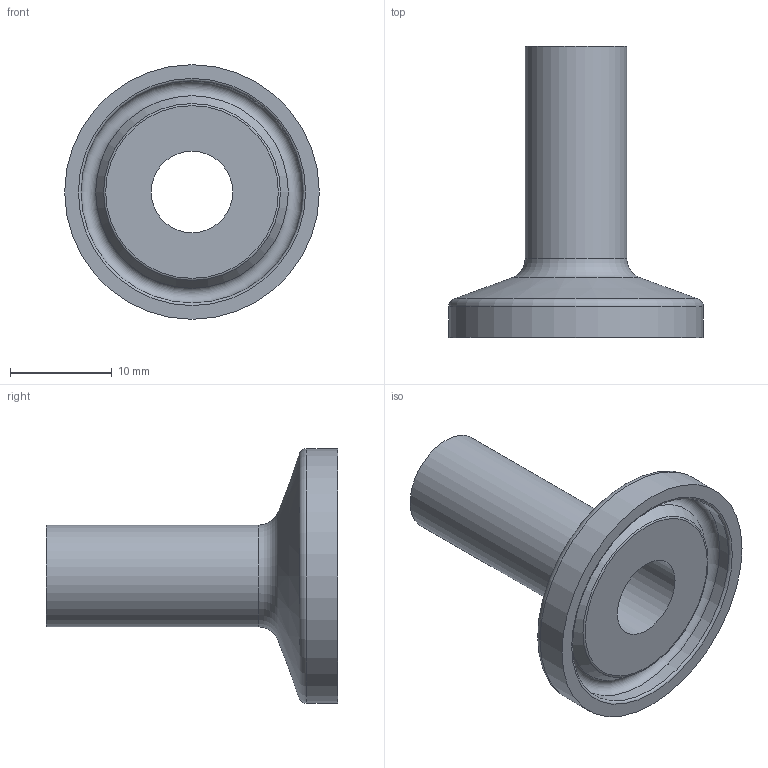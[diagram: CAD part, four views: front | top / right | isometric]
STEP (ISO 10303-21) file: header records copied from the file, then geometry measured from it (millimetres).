
FILE_DESCRIPTION(('Ferrule_10x1_L28,6_FL25_V13'),'2;1');
FILE_NAME('Ferrule_10x1_L28,6_FL25_V13.stp','2013-11-03T12:50:46',('DOCKWEILER AG'),('DOCKWEILER AG'),'Autodesk Inventor 2012','Autodesk Inventor 2012','');
FILE_SCHEMA(('CONFIG_CONTROL_DESIGN'));
Length unit declared in the file: millimetre
Products named in the file (1): N0003_003_001
Bounding box: 25 x 28.6 x 25 mm (x, y, z)
Volume: 2369.1 mm3; surface area: 2733 mm2
Topology: 1 solids, 1 shells, 14 faces, 25 edges, 14 vertices
Faces by surface type: torus 5, cylinder 4, plane 3, cone 2
Full cylindrical faces by diameter (mm): 8 x1, 10 x1, 21.8 x1, 25 x1
Entity records: 314 total; most frequent: DIRECTION 58, CARTESIAN_POINT 43, AXIS2_PLACEMENT_3D 29, ORIENTED_EDGE 28, EDGE_LOOP 28, VERTEX_POINT 14, CIRCLE 14, EDGE_CURVE 14
